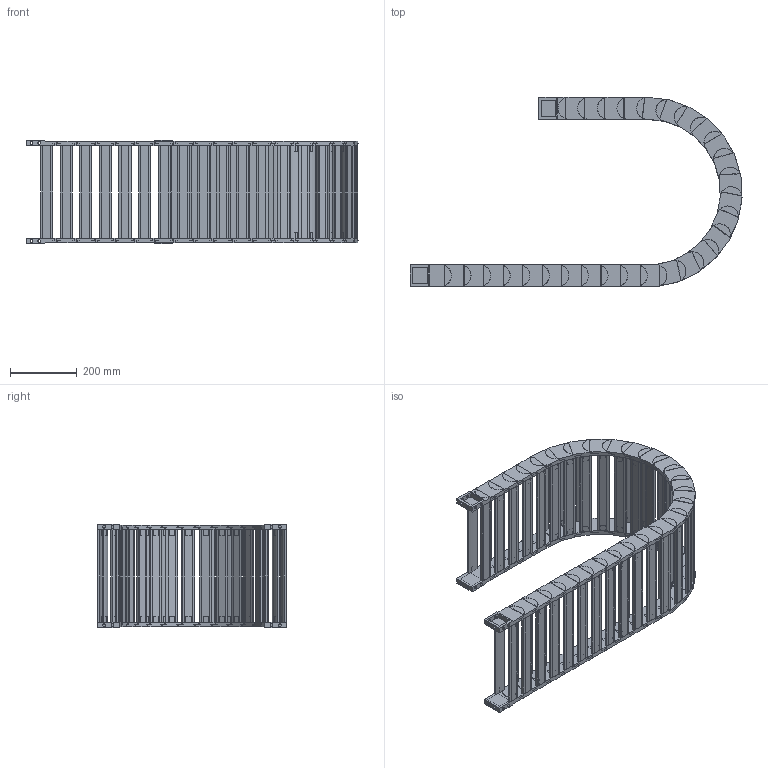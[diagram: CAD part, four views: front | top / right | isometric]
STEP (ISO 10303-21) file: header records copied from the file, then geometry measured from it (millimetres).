
FILE_DESCRIPTION((''),'2;1');
FILE_NAME('HD45-R250-ZPT_ASM','2022-06-20T20:47:54',('admin'),(''),'CREO PARAMETRIC BY PTC INC, 2021164','CREO PARAMETRIC BY PTC INC, 2021164','');
FILE_SCHEMA(('CONFIG_CONTROL_DESIGN','GEOMETRIC_VALIDATION_PROPERTIES_MIM'));
Length unit declared in the file: millimetre
Products named in the file (6): HD45-585; 45-500001; HD45_ASM; H45-T1-G; H45-T2-G; HD45-R250-ZPT_ASM
Assembly tree (34 placements, depth 3):
  HD45-R250-ZPT_ASM
    HD45_ASM  x28
      HD45-585
      45-500001
    H45-T1-G
    H45-T2-G
    45-500001  x2
Bounding box: 991.73 x 564.73 x 308.6 mm (x, y, z)
Volume: 8213242.7 mm3; surface area: 2617496.1 mm2
Topology: 120 solids, 120 shells, 2322 faces, 6218 edges, 4260 vertices
Faces by surface type: plane 1526, cylinder 796
Entity records: 8726 total; most frequent: CARTESIAN_POINT 1408, DIRECTION 1398, ORIENTED_EDGE 1276, EDGE_CURVE 638, AXIS2_PLACEMENT_3D 488, VERTEX_POINT 432, VECTOR 422, LINE 422
